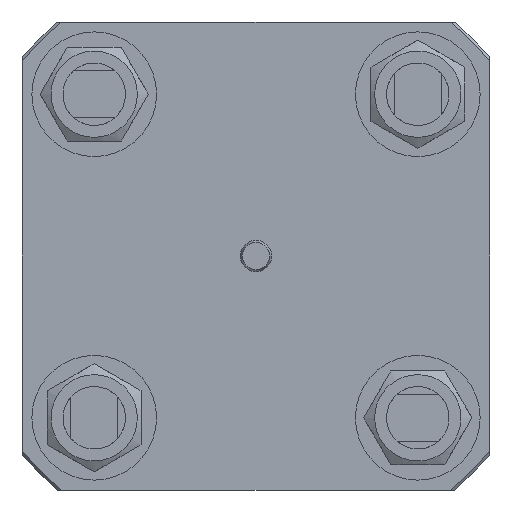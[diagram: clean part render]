
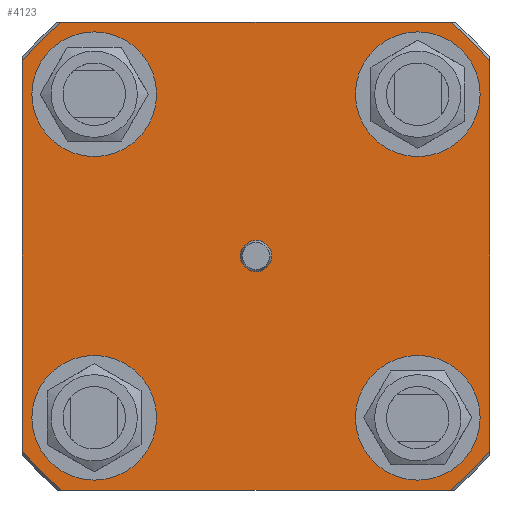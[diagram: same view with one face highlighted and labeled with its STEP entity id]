
A CAD part, left-side view. The second image highlights one B-rep face of the part: STEP entity #4123.
In plain terms, the highlighted planar face has unit normal (-1, 0, 0).
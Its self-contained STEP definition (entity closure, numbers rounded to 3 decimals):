
#242=FACE_BOUND('',#751,.T.);
#243=FACE_BOUND('',#752,.T.);
#244=FACE_BOUND('',#753,.T.);
#245=FACE_BOUND('',#754,.T.);
#246=FACE_BOUND('',#755,.T.);
#328=PLANE('',#4513);
#484=FACE_OUTER_BOUND('',#750,.T.);
#750=EDGE_LOOP('',(#3157,#3158,#3159,#3160,#3161,#3162,#3163,#3164));
#751=EDGE_LOOP('',(#3165));
#752=EDGE_LOOP('',(#3166));
#753=EDGE_LOOP('',(#3167));
#754=EDGE_LOOP('',(#3168));
#755=EDGE_LOOP('',(#3169));
#1019=LINE('',#6752,#1251);
#1020=LINE('',#6756,#1252);
#1021=LINE('',#6760,#1253);
#1022=LINE('',#6764,#1254);
#1251=VECTOR('',#5379,10.);
#1252=VECTOR('',#5382,10.);
#1253=VECTOR('',#5385,10.);
#1254=VECTOR('',#5388,10.);
#1452=CIRCLE('',#4437,3.);
#1463=CIRCLE('',#4479,12.);
#1465=CIRCLE('',#4483,12.);
#1467=CIRCLE('',#4487,12.);
#1471=CIRCLE('',#4502,12.);
#1480=CIRCLE('',#4514,58.5);
#1481=CIRCLE('',#4515,58.5);
#1482=CIRCLE('',#4516,58.5);
#1483=CIRCLE('',#4517,58.5);
#1730=VERTEX_POINT('',#6376);
#1777=VERTEX_POINT('',#6599);
#1779=VERTEX_POINT('',#6606);
#1781=VERTEX_POINT('',#6613);
#1797=VERTEX_POINT('',#6689);
#1812=VERTEX_POINT('',#6750);
#1813=VERTEX_POINT('',#6751);
#1814=VERTEX_POINT('',#6753);
#1815=VERTEX_POINT('',#6755);
#1816=VERTEX_POINT('',#6757);
#1817=VERTEX_POINT('',#6759);
#1818=VERTEX_POINT('',#6761);
#1819=VERTEX_POINT('',#6763);
#2170=EDGE_CURVE('',#1730,#1730,#1452,.T.);
#2243=EDGE_CURVE('',#1777,#1777,#1463,.T.);
#2246=EDGE_CURVE('',#1779,#1779,#1465,.T.);
#2249=EDGE_CURVE('',#1781,#1781,#1467,.T.);
#2274=EDGE_CURVE('',#1797,#1797,#1471,.T.);
#2291=EDGE_CURVE('',#1812,#1813,#1019,.T.);
#2292=EDGE_CURVE('',#1813,#1814,#1480,.T.);
#2293=EDGE_CURVE('',#1814,#1815,#1020,.T.);
#2294=EDGE_CURVE('',#1815,#1816,#1481,.T.);
#2295=EDGE_CURVE('',#1816,#1817,#1021,.T.);
#2296=EDGE_CURVE('',#1817,#1818,#1482,.T.);
#2297=EDGE_CURVE('',#1818,#1819,#1022,.T.);
#2298=EDGE_CURVE('',#1819,#1812,#1483,.T.);
#3157=ORIENTED_EDGE('',*,*,#2291,.T.);
#3158=ORIENTED_EDGE('',*,*,#2292,.T.);
#3159=ORIENTED_EDGE('',*,*,#2293,.T.);
#3160=ORIENTED_EDGE('',*,*,#2294,.T.);
#3161=ORIENTED_EDGE('',*,*,#2295,.T.);
#3162=ORIENTED_EDGE('',*,*,#2296,.T.);
#3163=ORIENTED_EDGE('',*,*,#2297,.T.);
#3164=ORIENTED_EDGE('',*,*,#2298,.T.);
#3165=ORIENTED_EDGE('',*,*,#2170,.T.);
#3166=ORIENTED_EDGE('',*,*,#2243,.T.);
#3167=ORIENTED_EDGE('',*,*,#2246,.T.);
#3168=ORIENTED_EDGE('',*,*,#2249,.T.);
#3169=ORIENTED_EDGE('',*,*,#2274,.T.);
#4123=ADVANCED_FACE('',(#484,#242,#243,#244,#245,#246),#328,.T.);
#4437=AXIS2_PLACEMENT_3D('',#6377,#5182,#5183);
#4479=AXIS2_PLACEMENT_3D('',#6600,#5292,#5293);
#4483=AXIS2_PLACEMENT_3D('',#6607,#5301,#5302);
#4487=AXIS2_PLACEMENT_3D('',#6614,#5310,#5311);
#4502=AXIS2_PLACEMENT_3D('',#6690,#5349,#5350);
#4513=AXIS2_PLACEMENT_3D('',#6749,#5377,#5378);
#4514=AXIS2_PLACEMENT_3D('',#6754,#5380,#5381);
#4515=AXIS2_PLACEMENT_3D('',#6758,#5383,#5384);
#4516=AXIS2_PLACEMENT_3D('',#6762,#5386,#5387);
#4517=AXIS2_PLACEMENT_3D('',#6765,#5389,#5390);
#5182=DIRECTION('center_axis',(1.,0.,0.));
#5183=DIRECTION('ref_axis',(0.,1.,0.));
#5292=DIRECTION('center_axis',(1.,0.,0.));
#5293=DIRECTION('ref_axis',(0.,-1.,0.));
#5301=DIRECTION('center_axis',(1.,0.,0.));
#5302=DIRECTION('ref_axis',(0.,0.,-1.));
#5310=DIRECTION('center_axis',(1.,0.,0.));
#5311=DIRECTION('ref_axis',(0.,1.,0.));
#5349=DIRECTION('center_axis',(1.,0.,0.));
#5350=DIRECTION('ref_axis',(0.,0.,
1.));
#5377=DIRECTION('center_axis',(-1.,0.,0.));
#5378=DIRECTION('ref_axis',(0.,0.,
-1.));
#5379=DIRECTION('',(0.,-1.,0.));
#5380=DIRECTION('center_axis',(-1.,0.,0.));
#5381=DIRECTION('ref_axis',(0.,0.,
-1.));
#5382=DIRECTION('',(0.,0.,1.));
#5383=DIRECTION('center_axis',(-1.,0.,0.));
#5384=DIRECTION('ref_axis',(0.,0.,
-1.));
#5385=DIRECTION('',(0.,1.,0.));
#5386=DIRECTION('center_axis',(-1.,0.,0.));
#5387=DIRECTION('ref_axis',(0.,0.,
-1.));
#5388=DIRECTION('',(0.,0.,-1.));
#5389=DIRECTION('center_axis',(-1.,0.,0.));
#5390=DIRECTION('ref_axis',(0.,0.,
-1.));
#6376=CARTESIAN_POINT('',(-249.019,-3.,0.));
#6377=CARTESIAN_POINT('Origin',(-249.019,0.,
0.));
#6599=CARTESIAN_POINT('',(-249.019,-19.113,31.113));
#6600=CARTESIAN_POINT('Origin',(-249.019,-31.113,31.113));
#6606=CARTESIAN_POINT('',(-249.019,-31.113,-19.113));
#6607=CARTESIAN_POINT('Origin',(-249.019,-31.113,-31.113));
#6613=CARTESIAN_POINT('',(-249.019,19.113,-31.113));
#6614=CARTESIAN_POINT('Origin',(-249.019,31.113,-31.113));
#6689=CARTESIAN_POINT('',(-249.019,31.113,19.113));
#6690=CARTESIAN_POINT('Origin',(-249.019,31.113,31.113));
#6749=CARTESIAN_POINT('Origin',(-249.019,-3.1,0.));
#6750=CARTESIAN_POINT('',(-249.019,37.38,-45.));
#6751=CARTESIAN_POINT('',(-249.019,-37.38,-45.));
#6752=CARTESIAN_POINT('',(-249.019,20.95,-45.));
#6753=CARTESIAN_POINT('',(-249.019,-45.,-37.38));
#6754=CARTESIAN_POINT('Origin',(-249.019,0.,
0.));
#6755=CARTESIAN_POINT('',(-249.019,-45.,37.38));
#6756=CARTESIAN_POINT('',(-249.019,-45.,-22.5));
#6757=CARTESIAN_POINT('',(-249.019,-37.38,45.));
#6758=CARTESIAN_POINT('Origin',(-249.019,0.,
0.));
#6759=CARTESIAN_POINT('',(-249.019,37.38,45.));
#6760=CARTESIAN_POINT('',(-249.019,-24.05,45.));
#6761=CARTESIAN_POINT('',(-249.019,45.,37.38));
#6762=CARTESIAN_POINT('Origin',(-249.019,0.,
0.));
#6763=CARTESIAN_POINT('',(-249.019,45.,-37.38));
#6764=CARTESIAN_POINT('',(-249.019,45.,22.5));
#6765=CARTESIAN_POINT('Origin',(-249.019,0.,
0.));
